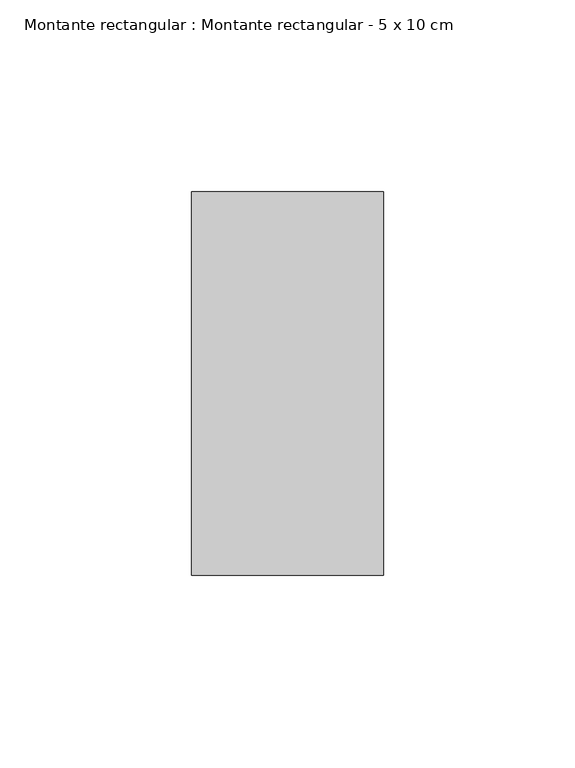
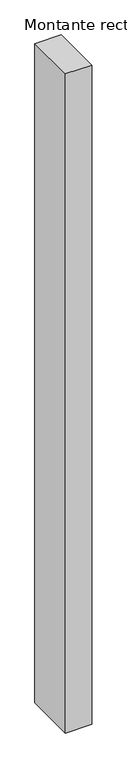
"""IFC4 building model written with IfcOpenShell, lengths in millimetres: member geometry, Montante rectangular : Montante rectangular - 5 x 10 cm."""

import ifcopenshell
import ifcopenshell.guid

model = None  # the IFC model being written
_history = None  # IfcOwnerHistory: only IFC2X3 demands one
_inside = {}  # id of a spatial element -> (the spatial element, [elements in it])
_under = {}  # id of a project, library or spatial element -> (it, [spatial elements below it])
_declared = {}  # id of a project -> (the project, [libraries it declares])
_typed = {}  # id of a type object -> (the type object, [elements of that type])
_made_of = {}  # id of a material, layer set ... -> (it, [elements and type objects made of it])


def new_model(schema):
    """Start an empty IFC model of exactly this schema.

    Asked for "IFC4X3", IfcOpenShell would pick the latest addendum, in which some entities
    have other attributes; the version numbers below select the first issue.
    IFC2X3 requires an IfcOwnerHistory on every rooted entity: one is made here for all.
    """
    global model, _history
    if schema == "IFC4X3":
        model = ifcopenshell.file(schema_version=(4, 3, 0, 0))
    else:
        model = ifcopenshell.file(schema=schema)
    _inside.clear()
    _under.clear()
    _declared.clear()
    _typed.clear()
    _made_of.clear()
    _history = None
    if model.schema == "IFC2X3":
        org = make("IfcOrganization", Name="unknown")
        user = make(
            "IfcPersonAndOrganization",
            ThePerson=make("IfcPerson", FamilyName="unknown"),
            TheOrganization=org,
        )
        app = make(
            "IfcApplication",
            ApplicationDeveloper=org,
            Version="unknown",
            ApplicationFullName="unknown",
            ApplicationIdentifier="unknown",
        )
        _history = make(
            "IfcOwnerHistory",
            OwningUser=user,
            OwningApplication=app,
            ChangeAction="ADDED",
            CreationDate=0,
        )
    return model


def make(cls, **values):
    """One entity of the class cls with the attributes given. An attribute that is None is left unset."""
    return model.create_entity(
        cls, **{name: value for name, value in values.items() if value is not None}
    )


def rooted(cls, **values):
    """An entity with a GlobalId (a new one), such as an element, a storey or a relation."""
    return make(cls, GlobalId=ifcopenshell.guid.new(), OwnerHistory=_history, **values)


def si_unit(unit_type, name, prefix=None):
    """IfcSIUnit, for example si_unit("LENGTHUNIT", "METRE", prefix="MILLI")."""
    return make("IfcSIUnit", UnitType=unit_type, Prefix=prefix, Name=name)


def assignment(units):
    """IfcUnitAssignment: the units of a project."""
    return None if units is None else make("IfcUnitAssignment", Units=units)


def point(xyz):
    """IfcCartesianPoint."""
    return None if xyz is None else make("IfcCartesianPoint", Coordinates=xyz)


def direction(xyz):
    """IfcDirection."""
    return None if xyz is None else make("IfcDirection", DirectionRatios=xyz)


def frame(location, z_axis=None, x_axis=None):
    """IfcAxis2Placement3D, a coordinate frame: its origin and axes. An axis left out is left unset."""
    return make(
        "IfcAxis2Placement3D",
        Location=point(location),
        Axis=direction(z_axis),
        RefDirection=direction(x_axis),
    )


def origin():
    """The frame at (0, 0, 0) with its axes left unset."""
    return frame((0.0, 0.0, 0.0))


def place(relative_to, where):
    """IfcLocalPlacement: puts the frame where relative to a parent placement (None: the world)."""
    return make(
        "IfcLocalPlacement", PlacementRelTo=relative_to, RelativePlacement=where
    )


def context(
    kind, dimensions, precision=None, world=None, true_north=None, identifier=None
):
    """IfcGeometricRepresentationContext, for example the 3D "Model" context."""
    return make(
        "IfcGeometricRepresentationContext",
        ContextIdentifier=identifier,
        ContextType=kind,
        CoordinateSpaceDimension=dimensions,
        Precision=precision,
        WorldCoordinateSystem=world,
        TrueNorth=true_north,
    )


def project(units=None, contexts=None):
    """IfcProject with its units and contexts."""
    return rooted(
        "IfcProject",
        Name="project",
        RepresentationContexts=contexts,
        UnitsInContext=assignment(units),
    )


def spatial(cls, under=None, at=None, **own):
    """A site, building, storey or space (cls), placed at a placement, below another one or the project."""
    s = rooted(cls, ObjectPlacement=at, **own)
    if under is not None:
        _under.setdefault(under.id(), (under, []))[1].append(s)
    return s


def polyline(points):
    """IfcPolyline through the points."""
    return make("IfcPolyline", Points=[point(p) for p in points])


def outline(outer, holes=None, kind="AREA"):
    """IfcArbitraryClosedProfileDef: a profile drawn as a closed curve; with holes, ...WithVoids."""
    if holes is None:
        return make("IfcArbitraryClosedProfileDef", ProfileType=kind, OuterCurve=outer)
    return make(
        "IfcArbitraryProfileDefWithVoids",
        ProfileType=kind,
        OuterCurve=outer,
        InnerCurves=holes,
    )


def extrude(swept, where, along, depth):
    """IfcExtrudedAreaSolid: the profile swept, set in the frame where, extruded along a direction by depth."""
    return make(
        "IfcExtrudedAreaSolid",
        SweptArea=swept,
        Position=where,
        ExtrudedDirection=direction(along),
        Depth=depth,
    )


def shape(context_of_items, identifier, shape_type, items):
    """IfcShapeRepresentation: the items that make up one representation, for example the "Body"."""
    return make(
        "IfcShapeRepresentation",
        ContextOfItems=context_of_items,
        RepresentationIdentifier=identifier,
        RepresentationType=shape_type,
        Items=items,
    )


def source(mapping_origin, context_of_items, identifier, shape_type, items):
    """IfcRepresentationMap: a shape defined once, which mapped items show again and again."""
    return make(
        "IfcRepresentationMap",
        MappingOrigin=mapping_origin,
        MappedRepresentation=shape(context_of_items, identifier, shape_type, items),
    )


def transform(
    local_origin,
    x_axis=None,
    y_axis=None,
    z_axis=None,
    scale=None,
    scale2=None,
    scale3=None,
    uniform=True,
):
    """IfcCartesianTransformationOperator3D, or its non-uniform kind. x_axis, y_axis, z_axis: its Axis1, 2, 3."""
    if uniform:
        return make(
            "IfcCartesianTransformationOperator3D",
            Axis1=direction(x_axis),
            Axis2=direction(y_axis),
            LocalOrigin=point(local_origin),
            Scale=scale,
            Axis3=direction(z_axis),
        )
    return make(
        "IfcCartesianTransformationOperator3DnonUniform",
        Axis1=direction(x_axis),
        Axis2=direction(y_axis),
        LocalOrigin=point(local_origin),
        Scale=scale,
        Axis3=direction(z_axis),
        Scale2=scale2,
        Scale3=scale3,
    )


def mapped(mapping_source, mapping_target):
    """IfcMappedItem: shows the shape of a source again, moved by a transform."""
    return make(
        "IfcMappedItem", MappingSource=mapping_source, MappingTarget=mapping_target
    )


def made_of(thing, what):
    """Note that an element or type object is made of a material, layer set ...; save() writes the relation."""
    if what is not None:
        _made_of.setdefault(what.id(), (what, []))[1].append(thing)
    return thing


def element(
    cls,
    number,
    at=None,
    inside=None,
    cuts=None,
    type_object=None,
    material=None,
    context=None,
    identifier="Body",
    shape_type=None,
    held_by="IfcProductDefinitionShape",
    body=None,
    shapes=None,
    **own,
):
    """One element of the class cls, such as IfcWall. Its Tag is "e" and its number.

    at: its placement. inside: the storey or other place that contains it. cuts: it is an
    opening in that element (IfcRelVoidsElement). A single representation is given by context,
    identifier, shape_type and body (its items); several are given by shapes. held_by: the class
    of the entity that holds the representations. save() writes the other relations.
    """
    e = rooted(cls, Tag="e%d" % number, ObjectPlacement=at, **own)
    if body is not None:
        shapes = [shape(context, identifier, shape_type, body)]
    if shapes is not None:
        e.Representation = make(held_by, Representations=shapes)
    if inside is not None:
        _inside.setdefault(inside.id(), (inside, []))[1].append(e)
    if cuts is not None:
        rooted(
            "IfcRelVoidsElement", RelatingBuildingElement=cuts, RelatedOpeningElement=e
        )
    if type_object is not None:
        _typed.setdefault(type_object.id(), (type_object, []))[1].append(e)
    return made_of(e, material)


def aggregate(whole, parts):
    """IfcRelAggregates: a whole, such as a stair, and the parts it consists of."""
    return rooted("IfcRelAggregates", RelatingObject=whole, RelatedObjects=parts)


def save(model, path):
    """Write the relations noted so far, then the file.

    IfcRelAggregates (storeys below a building ...), IfcRelContainedInSpatialStructure (elements
    in a storey), IfcRelDefinesByType, IfcRelAssociatesMaterial and IfcRelDeclares: one each for
    every whole, place, type object, material and project.
    """
    for whole, parts in _under.values():
        aggregate(whole, parts)
    for where, things in _inside.values():
        rooted(
            "IfcRelContainedInSpatialStructure",
            RelatedElements=things,
            RelatingStructure=where,
        )
    for kind, things in _typed.values():
        rooted("IfcRelDefinesByType", RelatedObjects=things, RelatingType=kind)
    for what, things in _made_of.values():
        rooted("IfcRelAssociatesMaterial", RelatedObjects=things, RelatingMaterial=what)
    for by, libraries in _declared.values():
        rooted("IfcRelDeclares", RelatingContext=by, RelatedDefinitions=libraries)
    model.write(path)


def montante_rectangular_montante_rectangular_5_x_10_cm_fe21e060(model_context):
    return source(origin(), model_context, "Body", "SweptSolid", [
        extrude(outline(polyline([(-50.0, 50.0), (0.0, 50.0), (0.0, -50.0), (-50.0, -50.0), (-50.0, 50.0)])), frame((0.0, 0.0, -1320.0), z_axis=(0.0, 0.0, 1.0), x_axis=(1.0, 0.0, 0.0)), (0.0, 0.0, 1.0), 1320.0),
    ])


if __name__ == "__main__":
    model = new_model("IFC4")
    model_context = context("Model", 3, world=origin())
    ifc_project = project(units=[si_unit("LENGTHUNIT", "METRE", prefix="MILLI")], contexts=[model_context])
    site = spatial("IfcSite", under=ifc_project)
    building = spatial("IfcBuilding", under=site)
    placement = place(None, origin())
    montante_rectangular_montante_rectangular_5_x_10_cm_shape = montante_rectangular_montante_rectangular_5_x_10_cm_fe21e060(model_context)
    element("IfcMember", 1, ObjectType="Montante rectangular : Montante rectangular - 5 x 10 cm", at=placement, inside=building, context=model_context, shape_type="MappedRepresentation", body=[
        mapped(montante_rectangular_montante_rectangular_5_x_10_cm_shape, transform((0.0, 0.0, 0.0), x_axis=(1.0, 0.0, 0.0), y_axis=(0.0, 1.0, 0.0), z_axis=(0.0, 0.0, 1.0))),
    ])
    save(model, "model.ifc")
